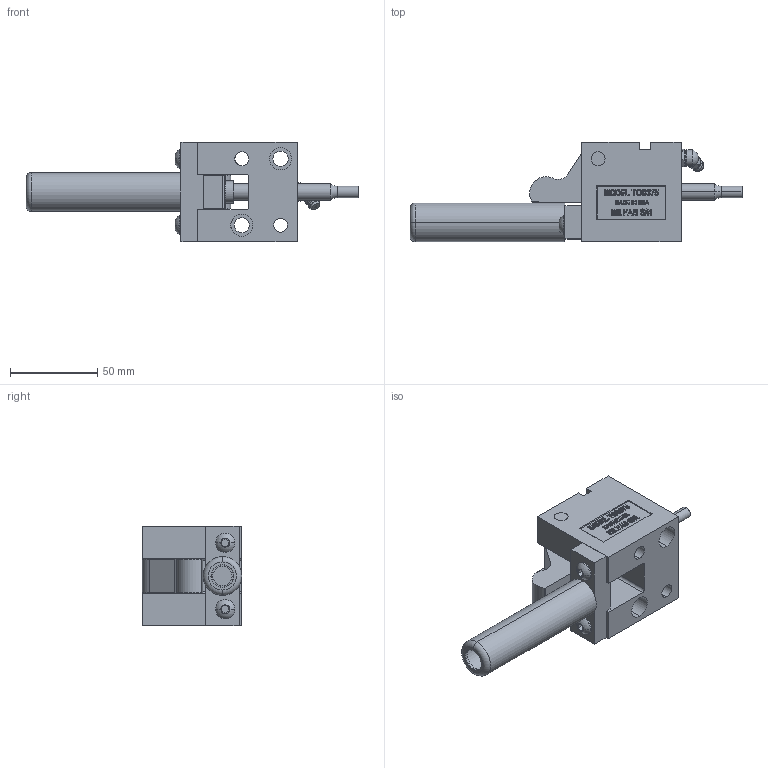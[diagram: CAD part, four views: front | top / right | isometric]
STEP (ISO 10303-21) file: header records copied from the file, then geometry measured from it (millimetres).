
FILE_DESCRIPTION (( 'STEP AP214' ), '1' );
FILE_NAME ('TOS37545-C.STEP', '2014-01-05T21:46:07', ( 'user' ), ( '' ), 'SwSTEP 2.0', 'SolidWorks 2009', '' );
FILE_SCHEMA (( 'AUTOMOTIVE_DESIGN' ));
Length unit declared in the file: inch
Products named in the file (10): OS375-CAGE; 375-O-STRAP; TOS375-BODY; O-375-POINT; OS375-PUNCH; 1-4 SCREW; GREASE ZERK; 375 PIVOT PIN; 375-OFFSET TRIGGER; TOS37545-C
Assembly tree (10 placements, depth 2):
  TOS37545-C
    TOS375-BODY
    1-4 SCREW  x2
    375 PIVOT PIN
    O-375-POINT
    375-O-STRAP
    OS375-CAGE
    OS375-PUNCH
    GREASE ZERK
    375-OFFSET TRIGGER
Bounding box: 190.5 x 57.15 x 57.15 mm (x, y, z)
Volume: 175027.6 mm3; surface area: 57823.2 mm2
Topology: 10 solids, 10 shells, 587 faces, 1523 edges, 1002 vertices
Faces by surface type: plane 340, bspline 109, cylinder 86, cone 26, torus 22, sphere 4
Entity records: 23865 total; most frequent: CARTESIAN_POINT 10227, ORIENTED_EDGE 2958, DIRECTION 2329, EDGE_CURVE 1479, VERTEX_POINT 976, VECTOR 967, LINE 967, AXIS2_PLACEMENT_3D 681
